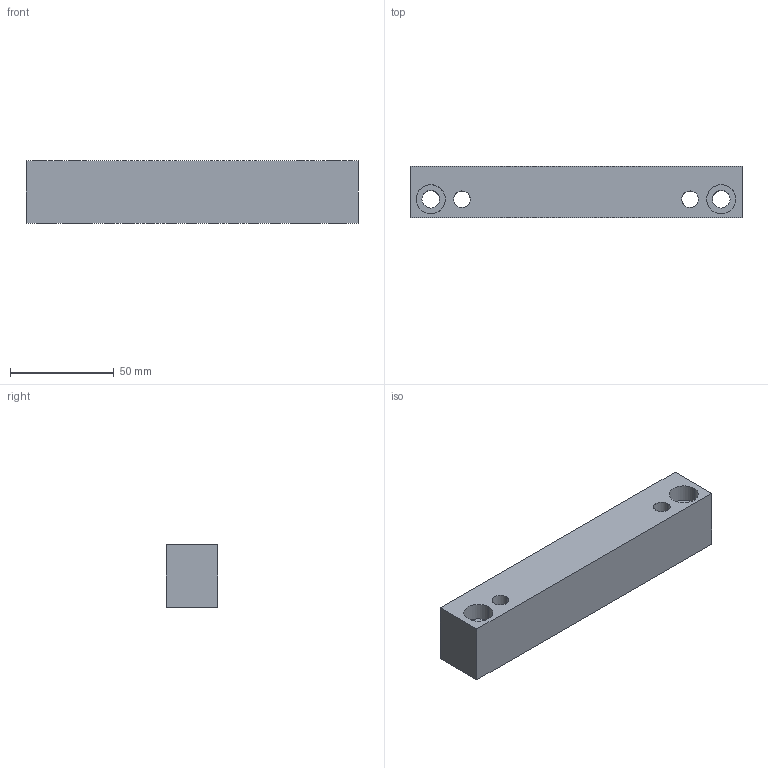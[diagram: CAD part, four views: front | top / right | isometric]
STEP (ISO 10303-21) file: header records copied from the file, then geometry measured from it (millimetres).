
FILE_DESCRIPTION(('CATIA V5 STEP Exchange'),'2;1');
FILE_NAME('C:\Users\Utente\Desktop\3D files G405\G40530160.stp','2020-04-22T09:16:39+00:00',('none'),('none'),'CATIA Version 5 Release 20 GA (IN-10)','CATIA V5 STEP AP203','none');
FILE_SCHEMA(('CONFIG_CONTROL_DESIGN'));
Length unit declared in the file: millimetre
Products named in the file (1): G40530160
Bounding box: 160 x 25 x 30 mm (x, y, z)
Surface area: 27390.2 mm2 (no closed solid volume)
Topology: 0 solids, 614 shells, 614 faces, 2628 edges, 2344 vertices
Faces by surface type: revolution 344, cylinder 200, plane 70
Entity records: 28868 total; most frequent: CARTESIAN_POINT 9449, DIRECTION 3062, ORIENTED_EDGE 2344, EDGE_CURVE 2344, VERTEX_POINT 2344, AXIS2_PLACEMENT_3D 1337, VECTOR 1112, LINE 1112
